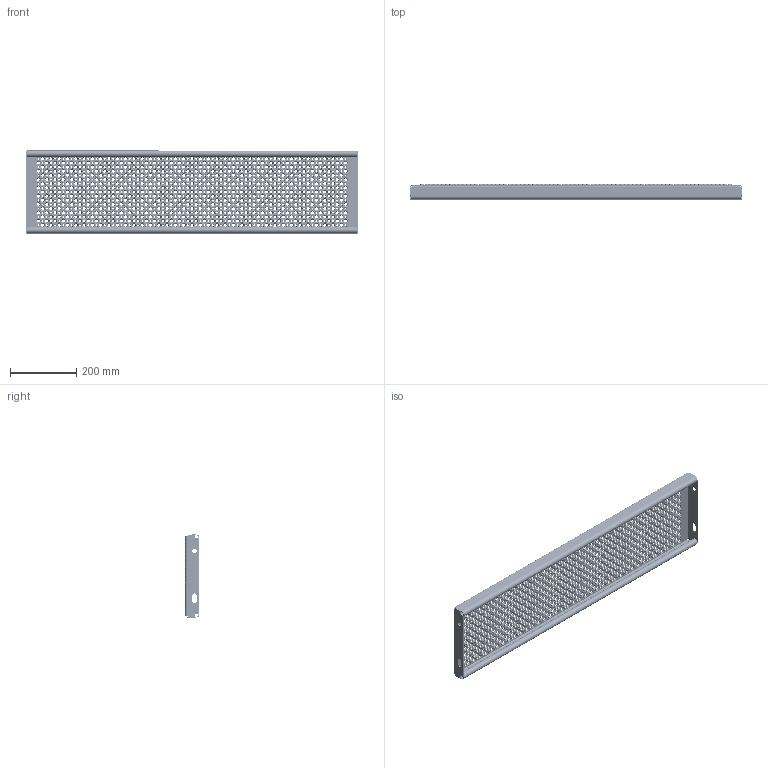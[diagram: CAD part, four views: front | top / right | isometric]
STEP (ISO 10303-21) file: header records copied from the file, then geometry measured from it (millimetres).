
FILE_DESCRIPTION (( 'STEP AP214' ), '1' );
FILE_NAME ('OPTIMO-Tread-Achil-O2-1000x250x45x2-st240-F100310100.STEP', '2021-03-16T11:34:52', ( '' ), ( '' ), 'SwSTEP 2.0', 'SolidWorks 2021', '' );
FILE_SCHEMA (( 'AUTOMOTIVE_DESIGN' ));
Length unit declared in the file: millimetre
Products named in the file (1): OPTIMO-Tread-Achil-O2-1000x250x45x2-st240-F100310100
Bounding box: 1000 x 45 x 250 mm (x, y, z)
Volume: 850457 mm3; surface area: 926078.8 mm2
Topology: 1 solids, 1 shells, 14332 faces, 37250 edges, 22920 vertices
Faces by surface type: cone 8550, torus 5700, plane 38, cylinder 36, bspline 8
Entity records: 456064 total; most frequent: DIRECTION 94424, CARTESIAN_POINT 75095, ORIENTED_EDGE 74500, AXIS2_PLACEMENT_3D 42881, EDGE_CURVE 37250, CIRCLE 28556, VERTEX_POINT 22920, EDGE_LOOP 17190
